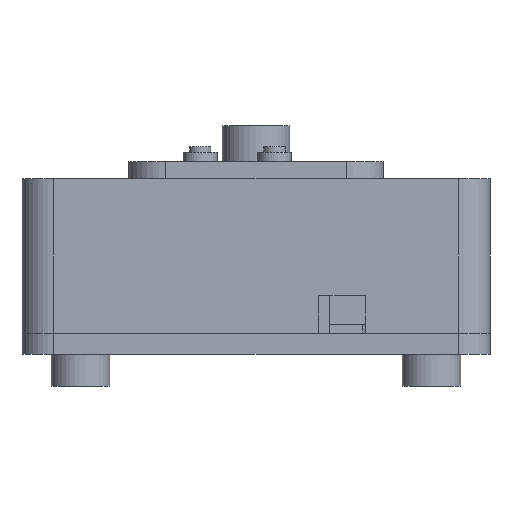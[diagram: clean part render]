
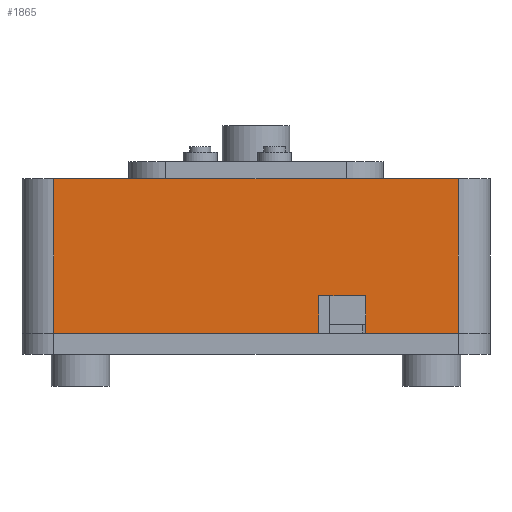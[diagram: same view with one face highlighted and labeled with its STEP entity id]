
A CAD part, front view. The second image highlights one B-rep face of the part: STEP entity #1865.
In plain terms, the highlighted planar face has unit normal (0, -1, 0).
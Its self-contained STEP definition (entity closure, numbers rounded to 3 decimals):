
#102 = PLANE('',#103);
#103 = AXIS2_PLACEMENT_3D('',#104,#105,#106);
#104 = CARTESIAN_POINT('',(-22.,-26.,-0.5));
#105 = DIRECTION('',(0.,0.,1.));
#106 = DIRECTION('',(1.,0.,0.));
#130 = CYLINDRICAL_SURFACE('',#131,3.);
#131 = AXIS2_PLACEMENT_3D('',#132,#133,#134);
#132 = CARTESIAN_POINT('',(-19.,-23.,-15.));
#133 = DIRECTION('',(0.,0.,1.));
#134 = DIRECTION('',(-1.,-0.,0.));
#158 = PLANE('',#159);
#159 = AXIS2_PLACEMENT_3D('',#160,#161,#162);
#160 = CARTESIAN_POINT('',(-22.,-26.,-15.));
#161 = DIRECTION('',(0.,0.,1.));
#162 = DIRECTION('',(1.,0.,0.));
#201 = VERTEX_POINT('',#202);
#202 = CARTESIAN_POINT('',(-19.,-26.,-0.5));
#224 = EDGE_CURVE('',#201,#225,#227,.T.);
#225 = VERTEX_POINT('',#226);
#226 = CARTESIAN_POINT('',(19.,-26.,-0.5));
#227 = SURFACE_CURVE('',#228,(#232,#239),.PCURVE_S1.);
#228 = LINE('',#229,#230);
#229 = CARTESIAN_POINT('',(-22.,-26.,-0.5));
#230 = VECTOR('',#231,1.);
#231 = DIRECTION('',(1.,0.,0.));
#232 = PCURVE('',#102,#233);
#233 = DEFINITIONAL_REPRESENTATION('',(#234),#238);
#234 = LINE('',#235,#236);
#235 = CARTESIAN_POINT('',(0.,0.));
#236 = VECTOR('',#237,1.);
#237 = DIRECTION('',(1.,0.));
#238 = ( GEOMETRIC_REPRESENTATION_CONTEXT(2) 
PARAMETRIC_REPRESENTATION_CONTEXT() REPRESENTATION_CONTEXT('2D SPACE',''
  ) );
#239 = PCURVE('',#240,#245);
#240 = PLANE('',#241);
#241 = AXIS2_PLACEMENT_3D('',#242,#243,#244);
#242 = CARTESIAN_POINT('',(-22.,-26.,-15.));
#243 = DIRECTION('',(0.,1.,0.));
#244 = DIRECTION('',(0.,0.,1.));
#245 = DEFINITIONAL_REPRESENTATION('',(#246),#250);
#246 = LINE('',#247,#248);
#247 = CARTESIAN_POINT('',(14.5,0.));
#248 = VECTOR('',#249,1.);
#249 = DIRECTION('',(0.,1.));
#250 = ( GEOMETRIC_REPRESENTATION_CONTEXT(2) 
PARAMETRIC_REPRESENTATION_CONTEXT() REPRESENTATION_CONTEXT('2D SPACE',''
  ) );
#273 = CYLINDRICAL_SURFACE('',#274,3.);
#274 = AXIS2_PLACEMENT_3D('',#275,#276,#277);
#275 = CARTESIAN_POINT('',(19.,-23.,-15.));
#276 = DIRECTION('',(0.,0.,1.));
#277 = DIRECTION('',(1.,0.,-0.));
#1076 = VERTEX_POINT('',#1077);
#1077 = CARTESIAN_POINT('',(-19.,-26.,-15.));
#1099 = EDGE_CURVE('',#1076,#201,#1100,.T.);
#1100 = SURFACE_CURVE('',#1101,(#1105,#1112),.PCURVE_S1.);
#1101 = LINE('',#1102,#1103);
#1102 = CARTESIAN_POINT('',(-19.,-26.,-15.));
#1103 = VECTOR('',#1104,1.);
#1104 = DIRECTION('',(0.,0.,1.));
#1105 = PCURVE('',#130,#1106);
#1106 = DEFINITIONAL_REPRESENTATION('',(#1107),#1111);
#1107 = LINE('',#1108,#1109);
#1108 = CARTESIAN_POINT('',(1.571,0.));
#1109 = VECTOR('',#1110,1.);
#1110 = DIRECTION('',(0.,1.));
#1111 = ( GEOMETRIC_REPRESENTATION_CONTEXT(2) 
PARAMETRIC_REPRESENTATION_CONTEXT() REPRESENTATION_CONTEXT('2D SPACE',''
  ) );
#1112 = PCURVE('',#240,#1113);
#1113 = DEFINITIONAL_REPRESENTATION('',(#1114),#1118);
#1114 = LINE('',#1115,#1116);
#1115 = CARTESIAN_POINT('',(0.,3.));
#1116 = VECTOR('',#1117,1.);
#1117 = DIRECTION('',(1.,0.));
#1118 = ( GEOMETRIC_REPRESENTATION_CONTEXT(2) 
PARAMETRIC_REPRESENTATION_CONTEXT() REPRESENTATION_CONTEXT('2D SPACE',''
  ) );
#1181 = EDGE_CURVE('',#1076,#1182,#1184,.T.);
#1182 = VERTEX_POINT('',#1183);
#1183 = CARTESIAN_POINT('',(5.9,-26.,-15.));
#1184 = SURFACE_CURVE('',#1185,(#1189,#1196),.PCURVE_S1.);
#1185 = LINE('',#1186,#1187);
#1186 = CARTESIAN_POINT('',(-22.,-26.,-15.));
#1187 = VECTOR('',#1188,1.);
#1188 = DIRECTION('',(1.,0.,0.));
#1189 = PCURVE('',#158,#1190);
#1190 = DEFINITIONAL_REPRESENTATION('',(#1191),#1195);
#1191 = LINE('',#1192,#1193);
#1192 = CARTESIAN_POINT('',(0.,0.));
#1193 = VECTOR('',#1194,1.);
#1194 = DIRECTION('',(1.,0.));
#1195 = ( GEOMETRIC_REPRESENTATION_CONTEXT(2) 
PARAMETRIC_REPRESENTATION_CONTEXT() REPRESENTATION_CONTEXT('2D SPACE',''
  ) );
#1196 = PCURVE('',#240,#1197);
#1197 = DEFINITIONAL_REPRESENTATION('',(#1198),#1202);
#1198 = LINE('',#1199,#1200);
#1199 = CARTESIAN_POINT('',(0.,0.));
#1200 = VECTOR('',#1201,1.);
#1201 = DIRECTION('',(0.,1.));
#1202 = ( GEOMETRIC_REPRESENTATION_CONTEXT(2) 
PARAMETRIC_REPRESENTATION_CONTEXT() REPRESENTATION_CONTEXT('2D SPACE',''
  ) );
#1219 = PLANE('',#1220);
#1220 = AXIS2_PLACEMENT_3D('',#1221,#1222,#1223);
#1221 = CARTESIAN_POINT('',(5.9,-28.,-15.1));
#1222 = DIRECTION('',(1.,0.,0.));
#1223 = DIRECTION('',(0.,0.,1.));
#1472 = VERTEX_POINT('',#1473);
#1473 = CARTESIAN_POINT('',(10.3,-26.,-15.));
#1486 = PLANE('',#1487);
#1487 = AXIS2_PLACEMENT_3D('',#1488,#1489,#1490);
#1488 = CARTESIAN_POINT('',(10.3,-28.,-15.1));
#1489 = DIRECTION('',(1.,0.,0.));
#1490 = DIRECTION('',(0.,0.,1.));
#1497 = EDGE_CURVE('',#1472,#1498,#1500,.T.);
#1498 = VERTEX_POINT('',#1499);
#1499 = CARTESIAN_POINT('',(19.,-26.,-15.));
#1500 = SURFACE_CURVE('',#1501,(#1505,#1512),.PCURVE_S1.);
#1501 = LINE('',#1502,#1503);
#1502 = CARTESIAN_POINT('',(-22.,-26.,-15.));
#1503 = VECTOR('',#1504,1.);
#1504 = DIRECTION('',(1.,0.,0.));
#1505 = PCURVE('',#158,#1506);
#1506 = DEFINITIONAL_REPRESENTATION('',(#1507),#1511);
#1507 = LINE('',#1508,#1509);
#1508 = CARTESIAN_POINT('',(0.,0.));
#1509 = VECTOR('',#1510,1.);
#1510 = DIRECTION('',(1.,0.));
#1511 = ( GEOMETRIC_REPRESENTATION_CONTEXT(2) 
PARAMETRIC_REPRESENTATION_CONTEXT() REPRESENTATION_CONTEXT('2D SPACE',''
  ) );
#1512 = PCURVE('',#240,#1513);
#1513 = DEFINITIONAL_REPRESENTATION('',(#1514),#1518);
#1514 = LINE('',#1515,#1516);
#1515 = CARTESIAN_POINT('',(0.,0.));
#1516 = VECTOR('',#1517,1.);
#1517 = DIRECTION('',(0.,1.));
#1518 = ( GEOMETRIC_REPRESENTATION_CONTEXT(2) 
PARAMETRIC_REPRESENTATION_CONTEXT() REPRESENTATION_CONTEXT('2D SPACE',''
  ) );
#1865 = ADVANCED_FACE('',(#1866),#240,.F.);
#1866 = FACE_BOUND('',#1867,.F.);
#1867 = EDGE_LOOP('',(#1868,#1869,#1870,#1871,#1892,#1893,#1914,#1940));
#1868 = ORIENTED_EDGE('',*,*,#1181,.F.);
#1869 = ORIENTED_EDGE('',*,*,#1099,.T.);
#1870 = ORIENTED_EDGE('',*,*,#224,.T.);
#1871 = ORIENTED_EDGE('',*,*,#1872,.F.);
#1872 = EDGE_CURVE('',#1498,#225,#1873,.T.);
#1873 = SURFACE_CURVE('',#1874,(#1878,#1885),.PCURVE_S1.);
#1874 = LINE('',#1875,#1876);
#1875 = CARTESIAN_POINT('',(19.,-26.,-15.));
#1876 = VECTOR('',#1877,1.);
#1877 = DIRECTION('',(0.,0.,1.));
#1878 = PCURVE('',#240,#1879);
#1879 = DEFINITIONAL_REPRESENTATION('',(#1880),#1884);
#1880 = LINE('',#1881,#1882);
#1881 = CARTESIAN_POINT('',(0.,41.));
#1882 = VECTOR('',#1883,1.);
#1883 = DIRECTION('',(1.,0.));
#1884 = ( GEOMETRIC_REPRESENTATION_CONTEXT(2) 
PARAMETRIC_REPRESENTATION_CONTEXT() REPRESENTATION_CONTEXT('2D SPACE',''
  ) );
#1885 = PCURVE('',#273,#1886);
#1886 = DEFINITIONAL_REPRESENTATION('',(#1887),#1891);
#1887 = LINE('',#1888,#1889);
#1888 = CARTESIAN_POINT('',(-1.571,0.));
#1889 = VECTOR('',#1890,1.);
#1890 = DIRECTION('',(-0.,1.));
#1891 = ( GEOMETRIC_REPRESENTATION_CONTEXT(2) 
PARAMETRIC_REPRESENTATION_CONTEXT() REPRESENTATION_CONTEXT('2D SPACE',''
  ) );
#1892 = ORIENTED_EDGE('',*,*,#1497,.F.);
#1893 = ORIENTED_EDGE('',*,*,#1894,.F.);
#1894 = EDGE_CURVE('',#1895,#1472,#1897,.T.);
#1895 = VERTEX_POINT('',#1896);
#1896 = CARTESIAN_POINT('',(10.3,-26.,-11.5));
#1897 = SURFACE_CURVE('',#1898,(#1902,#1908),.PCURVE_S1.);
#1898 = LINE('',#1899,#1900);
#1899 = CARTESIAN_POINT('',(10.3,-26.,-15.05));
#1900 = VECTOR('',#1901,1.);
#1901 = DIRECTION('',(0.,0.,-1.));
#1902 = PCURVE('',#240,#1903);
#1903 = DEFINITIONAL_REPRESENTATION('',(#1904),#1907);
#1904 = B_SPLINE_CURVE_WITH_KNOTS('',1,(#1905,#1906),.UNSPECIFIED.,.F.,
  .F.,(2,2),(-3.55,-0.05),.PIECEWISE_BEZIER_KNOTS.);
#1905 = CARTESIAN_POINT('',(3.5,32.3));
#1906 = CARTESIAN_POINT('',(0.,32.3));
#1907 = ( GEOMETRIC_REPRESENTATION_CONTEXT(2) 
PARAMETRIC_REPRESENTATION_CONTEXT() REPRESENTATION_CONTEXT('2D SPACE',''
  ) );
#1908 = PCURVE('',#1486,#1909);
#1909 = DEFINITIONAL_REPRESENTATION('',(#1910),#1913);
#1910 = B_SPLINE_CURVE_WITH_KNOTS('',1,(#1911,#1912),.UNSPECIFIED.,.F.,
  .F.,(2,2),(-3.55,-0.05),.PIECEWISE_BEZIER_KNOTS.);
#1911 = CARTESIAN_POINT('',(3.6,-2.));
#1912 = CARTESIAN_POINT('',(0.1,-2.));
#1913 = ( GEOMETRIC_REPRESENTATION_CONTEXT(2) 
PARAMETRIC_REPRESENTATION_CONTEXT() REPRESENTATION_CONTEXT('2D SPACE',''
  ) );
#1914 = ORIENTED_EDGE('',*,*,#1915,.F.);
#1915 = EDGE_CURVE('',#1916,#1895,#1918,.T.);
#1916 = VERTEX_POINT('',#1917);
#1917 = CARTESIAN_POINT('',(5.9,-26.,-11.5));
#1918 = SURFACE_CURVE('',#1919,(#1923,#1929),.PCURVE_S1.);
#1919 = LINE('',#1920,#1921);
#1920 = CARTESIAN_POINT('',(-8.05,-26.,-11.5));
#1921 = VECTOR('',#1922,1.);
#1922 = DIRECTION('',(1.,0.,0.));
#1923 = PCURVE('',#240,#1924);
#1924 = DEFINITIONAL_REPRESENTATION('',(#1925),#1928);
#1925 = B_SPLINE_CURVE_WITH_KNOTS('',1,(#1926,#1927),.UNSPECIFIED.,.F.,
  .F.,(2,2),(13.95,18.35),.PIECEWISE_BEZIER_KNOTS.);
#1926 = CARTESIAN_POINT('',(3.5,27.9));
#1927 = CARTESIAN_POINT('',(3.5,32.3));
#1928 = ( GEOMETRIC_REPRESENTATION_CONTEXT(2) 
PARAMETRIC_REPRESENTATION_CONTEXT() REPRESENTATION_CONTEXT('2D SPACE',''
  ) );
#1929 = PCURVE('',#1930,#1935);
#1930 = PLANE('',#1931);
#1931 = AXIS2_PLACEMENT_3D('',#1932,#1933,#1934);
#1932 = CARTESIAN_POINT('',(5.9,-28.,-11.5));
#1933 = DIRECTION('',(0.,0.,1.));
#1934 = DIRECTION('',(1.,0.,0.));
#1935 = DEFINITIONAL_REPRESENTATION('',(#1936),#1939);
#1936 = B_SPLINE_CURVE_WITH_KNOTS('',1,(#1937,#1938),.UNSPECIFIED.,.F.,
  .F.,(2,2),(13.95,18.35),.PIECEWISE_BEZIER_KNOTS.);
#1937 = CARTESIAN_POINT('',(0.,2.));
#1938 = CARTESIAN_POINT('',(4.4,2.));
#1939 = ( GEOMETRIC_REPRESENTATION_CONTEXT(2) 
PARAMETRIC_REPRESENTATION_CONTEXT() REPRESENTATION_CONTEXT('2D SPACE',''
  ) );
#1940 = ORIENTED_EDGE('',*,*,#1941,.T.);
#1941 = EDGE_CURVE('',#1916,#1182,#1942,.T.);
#1942 = SURFACE_CURVE('',#1943,(#1947,#1953),.PCURVE_S1.);
#1943 = LINE('',#1944,#1945);
#1944 = CARTESIAN_POINT('',(5.9,-26.,-15.05));
#1945 = VECTOR('',#1946,1.);
#1946 = DIRECTION('',(0.,0.,-1.));
#1947 = PCURVE('',#240,#1948);
#1948 = DEFINITIONAL_REPRESENTATION('',(#1949),#1952);
#1949 = B_SPLINE_CURVE_WITH_KNOTS('',1,(#1950,#1951),.UNSPECIFIED.,.F.,
  .F.,(2,2),(-3.55,-0.05),.PIECEWISE_BEZIER_KNOTS.);
#1950 = CARTESIAN_POINT('',(3.5,27.9));
#1951 = CARTESIAN_POINT('',(0.,27.9));
#1952 = ( GEOMETRIC_REPRESENTATION_CONTEXT(2) 
PARAMETRIC_REPRESENTATION_CONTEXT() REPRESENTATION_CONTEXT('2D SPACE',''
  ) );
#1953 = PCURVE('',#1219,#1954);
#1954 = DEFINITIONAL_REPRESENTATION('',(#1955),#1958);
#1955 = B_SPLINE_CURVE_WITH_KNOTS('',1,(#1956,#1957),.UNSPECIFIED.,.F.,
  .F.,(2,2),(-3.55,-0.05),.PIECEWISE_BEZIER_KNOTS.);
#1956 = CARTESIAN_POINT('',(3.6,-2.));
#1957 = CARTESIAN_POINT('',(0.1,-2.));
#1958 = ( GEOMETRIC_REPRESENTATION_CONTEXT(2) 
PARAMETRIC_REPRESENTATION_CONTEXT() REPRESENTATION_CONTEXT('2D SPACE',''
  ) );
